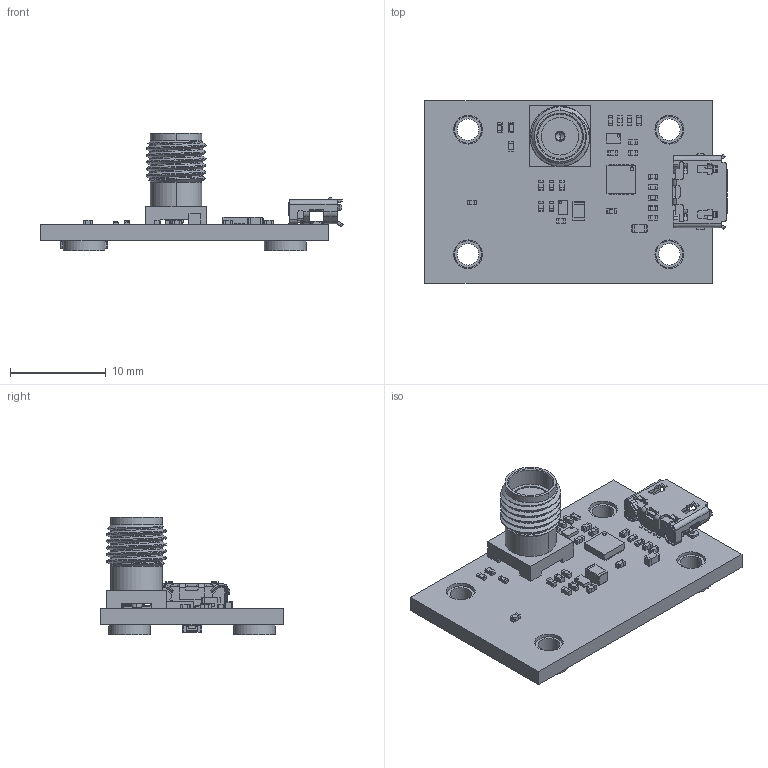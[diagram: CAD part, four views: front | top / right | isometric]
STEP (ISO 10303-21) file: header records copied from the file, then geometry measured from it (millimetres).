
FILE_DESCRIPTION(('Open CASCADE Model'),'2;1');
FILE_NAME('Open CASCADE Shape Model','2023-06-09T09:08:59',('Author'),( 'Open CASCADE'),'Open CASCADE STEP processor 6.8','Open CASCADE 6.8' ,'Unknown');
FILE_SCHEMA(('AUTOMOTIVE_DESIGN { 1 0 10303 214 1 1 1 1 }'));
Length unit declared in the file: millimetre
Products named in the file (60): PCB; Board; Open CASCADE STEP translator 6.8 9.1.1; U2; 6953354800; Extruded; 5681936784; C16; User_Library-cap_0402; C15; C14; L2; User_Library-User_Library-Chip_InductorINDC2012X130N; T1; 5681998336; TRIG; 732511350; Open CASCADE STEP translator 6.8 9.8.1.1; Open CASCADE STEP translator 6.8 9.8.1.2; R9; User_Library-res0402-1; R6; R5; R4; R2; R1; L1; 603; J1; 6588002752; IC1; 6587994832; Body; ThermalPin; PinsArrayLR; D2; User_Library-led_0402(2); C13; C12; C11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
Assembly tree (83 placements, depth 4):
  PCB
    Board
      Open CASCADE STEP translator 6.8 9.1.1
    U2
      6953354800
        Extruded
      5681936784
        Extruded
    C16
      User_Library-cap_0402
    C15
      User_Library-cap_0402
    C14
      User_Library-cap_0402
    L2
      User_Library-User_Library-Chip_InductorINDC2012X130N
    T1
      5681936784
        Extruded
      5681998336
        Extruded
    TRIG
      732511350
        Open CASCADE STEP translator 6.8 9.8.1.1
        Open CASCADE STEP translator 6.8 9.8.1.2
    R9
      User_Library-res0402-1
    R6
      User_Library-res0402-1
    R5
      User_Library-res0402-1
    R4
      User_Library-res0402-1
    R2
      User_Library-res0402-1
    R1
      User_Library-res0402-1
    L1
      603
    J1
      6588002752
    IC1
      6587994832
        Body
        ThermalPin
        PinsArrayLR
    D2
      User_Library-led_0402(2)
    C13
      User_Library-cap_0402
    C12
      User_Library-cap_0402
    C11
      User_Library-cap_0402
    C10
      User_Library-cap_0402
    C9
      User_Library-cap_0402
    C8
      User_Library-cap_0402
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Bounding box: 31.53 x 19 x 12.22 mm (x, y, z)
Volume: 1194.9 mm3; surface area: 2366.2 mm2
Topology: 50 solids, 678 shells, 3114 faces, 9896 edges, 7450 vertices
Faces by surface type: plane 1503, cylinder 760, bspline 622, sphere 144, cone 53, torus 32
Full cylindrical faces by diameter (mm): 0.375 x1, 2.25 x4, 2.8 x4, 3 x4, 4.35 x4
Entity records: 107186 total; most frequent: CARTESIAN_POINT 30625, DIRECTION 12706, ORIENTED_EDGE 11960, EDGE_CURVE 7750, VERTEX_POINT 6230, LINE 5586, VECTOR 5586, AXIS2_PLACEMENT_3D 3560
